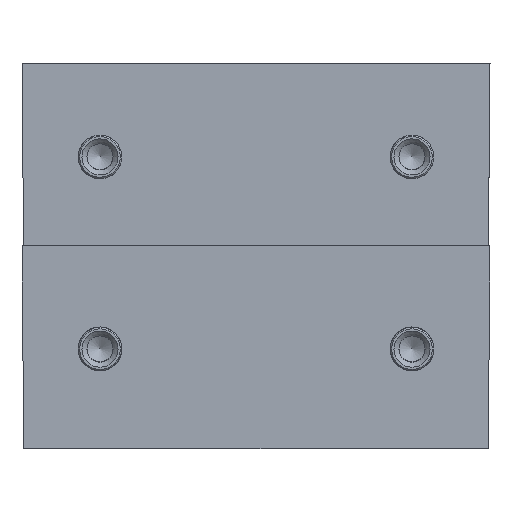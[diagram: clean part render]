
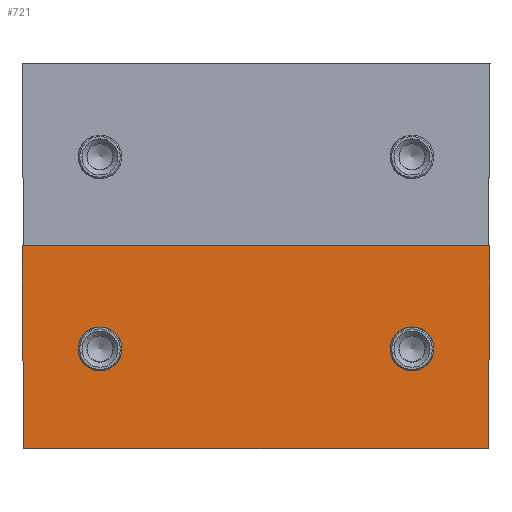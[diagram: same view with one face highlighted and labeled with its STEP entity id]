
A CAD part, front view. The second image highlights one B-rep face of the part: STEP entity #721.
In plain terms, the highlighted planar face has unit normal (0, -1, -0.009).
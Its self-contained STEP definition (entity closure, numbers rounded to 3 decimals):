
#721=ADVANCED_FACE('',(#1881,#1883,#1885),#1887,.T.);
#1881=FACE_BOUND('',#1882,.T.);
#1882=EDGE_LOOP('',(#2910,#2911,#2912,#2913));
#1883=FACE_BOUND('',#1884,.T.);
#1884=EDGE_LOOP('',(#2914));
#1885=FACE_BOUND('',#1886,.T.);
#1886=EDGE_LOOP('',(#2915));
#1887=PLANE('',#1888);
#1888=AXIS2_PLACEMENT_3D('',#1889,#1890,#1891);
#1889=CARTESIAN_POINT('',(0.,-81.641,253.093));
#1890=DIRECTION('',(-0.,-1.,-0.009));
#1891=DIRECTION('',(-1.,0.,0.));
#2910=ORIENTED_EDGE('',*,*,#3450,.F.);
#2911=ORIENTED_EDGE('',*,*,#3434,.T.);
#2912=ORIENTED_EDGE('',*,*,#3449,.T.);
#2913=ORIENTED_EDGE('',*,*,#3451,.T.);
#2914=ORIENTED_EDGE('',*,*,#3452,.T.);
#2915=ORIENTED_EDGE('',*,*,#3453,.F.);
#3434=EDGE_CURVE('',#3714,#3712,#3715,.T.);
#3449=EDGE_CURVE('',#3712,#3737,#3739,.T.);
#3450=EDGE_CURVE('',#3714,#3740,#3741,.T.);
#3451=EDGE_CURVE('',#3737,#3740,#3742,.T.);
#3452=EDGE_CURVE('',#3743,#3743,#3744,.T.);
#3453=EDGE_CURVE('',#3745,#3745,#3746,.T.);
#3712=VERTEX_POINT('',#4195);
#3714=VERTEX_POINT('',#4199);
#3715=LINE('',#4200,#4201);
#3737=VERTEX_POINT('',#4255);
#3739=LINE('',#4259,#4260);
#3740=VERTEX_POINT('',#4262);
#3741=LINE('',#4263,#4264);
#3742=LINE('',#4266,#4267);
#3743=VERTEX_POINT('',#4269);
#3744=(BOUNDED_CURVE()B_SPLINE_CURVE(3,
(#4270,#4271,#4272,#4273,#4274,#4275,#4276),
.UNSPECIFIED.,.T.,.F.)B_SPLINE_CURVE_WITH_KNOTS((4,3,4),
(0.,0.5,1.),
.UNSPECIFIED.)CURVE()GEOMETRIC_REPRESENTATION_ITEM()RATIONAL_B_SPLINE_CURVE((1.,
0.333,0.333,1.,0.333,0.333,1.))
REPRESENTATION_ITEM(''));
#3745=VERTEX_POINT('',#4277);
#3746=(BOUNDED_CURVE()B_SPLINE_CURVE(3,
(#4278,#4279,#4280,#4281,#4282,#4283,#4284),
.UNSPECIFIED.,.T.,.F.)B_SPLINE_CURVE_WITH_KNOTS((4,3,4),
(0.,0.5,1.),
.UNSPECIFIED.)CURVE()GEOMETRIC_REPRESENTATION_ITEM()RATIONAL_B_SPLINE_CURVE((1.,
0.333,0.333,1.,0.333,0.333,1.))
REPRESENTATION_ITEM(''));
#4195=CARTESIAN_POINT('',(74.433,-79.433,0.));
#4199=CARTESIAN_POINT('',(-74.433,-79.433,0.));
#4200=CARTESIAN_POINT('',(-74.433,-79.433,0.));
#4201=VECTOR('',#4202,1.);
#4202=DIRECTION('',(1.,0.,0.));
#4255=CARTESIAN_POINT('',(75.,-80.,65.));
#4259=CARTESIAN_POINT('',(74.433,-79.433,0.));
#4260=VECTOR('',#4261,1.);
#4261=DIRECTION('',(0.009,-0.009,1.));
#4262=CARTESIAN_POINT('',(-75.,-80.,65.));
#4263=CARTESIAN_POINT('',(-74.433,-79.433,0.));
#4264=VECTOR('',#4265,1.);
#4265=DIRECTION('',(-0.009,-0.009,1.));
#4266=CARTESIAN_POINT('',(75.,-80.,65.));
#4267=VECTOR('',#4268,1.);
#4268=DIRECTION('',(-1.,0.,0.));
#4269=CARTESIAN_POINT('',(-43.,-79.712,32.));
#4270=CARTESIAN_POINT('',(-43.,-79.712,32.));
#4271=CARTESIAN_POINT('',(-43.,-79.59,18.));
#4272=CARTESIAN_POINT('',(-57.,-79.59,18.));
#4273=CARTESIAN_POINT('',(-57.,-79.712,32.));
#4274=CARTESIAN_POINT('',(-57.,-79.834,46.));
#4275=CARTESIAN_POINT('',(-43.,-79.834,46.));
#4276=CARTESIAN_POINT('',(-43.,-79.712,32.));
#4277=CARTESIAN_POINT('',(43.,-79.712,32.));
#4278=CARTESIAN_POINT('',(43.,-79.712,32.));
#4279=CARTESIAN_POINT('',(43.,-79.59,18.));
#4280=CARTESIAN_POINT('',(57.,-79.59,18.));
#4281=CARTESIAN_POINT('',(57.,-79.712,32.));
#4282=CARTESIAN_POINT('',(57.,-79.834,46.));
#4283=CARTESIAN_POINT('',(43.,-79.834,46.));
#4284=CARTESIAN_POINT('',(43.,-79.712,32.));
